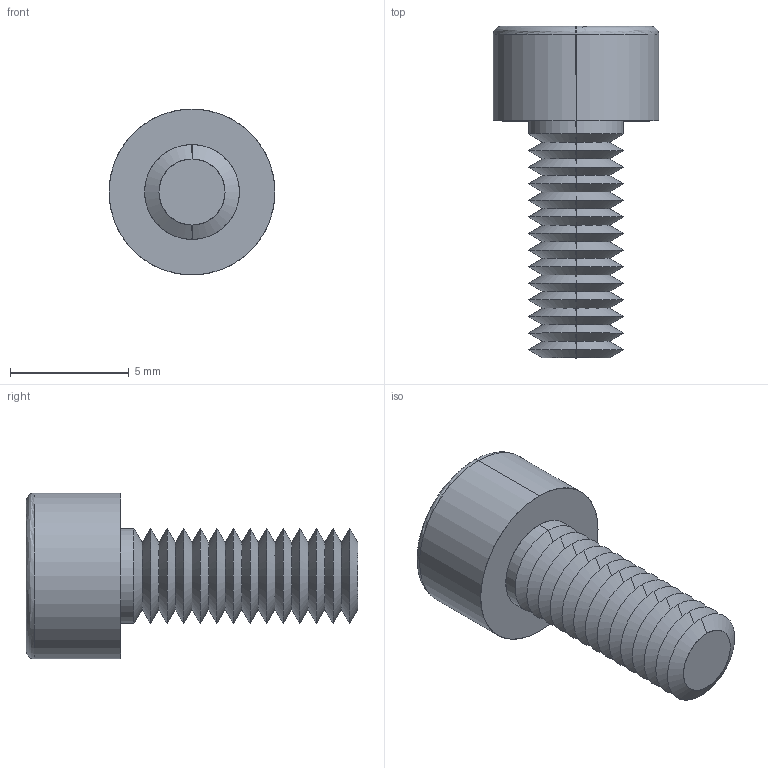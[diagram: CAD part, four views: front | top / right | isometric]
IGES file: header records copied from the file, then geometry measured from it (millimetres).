
Start section: SolidWorks IGES file using analytic representation for surfaces
Global section: file name: C:\Users\ianosborn\Desktop\N0007.91N_v2\N0007.91N_v2_20250519_IGES\91N.040.0100.igs; native system: SolidWorks 2019; preprocessor: SolidWorks 2019; author: IanOsborn; date: 250520.095052; units: millimetre
Bounding box: 7 x 14 x 7 mm (x, y, z)
Surface area: 395.4 mm2 (no closed solid volume)
Topology: 0 solids, 0 shells, 84 faces, 521 edges, 519 vertices
Faces by surface type: revolution 67, bspline 17
